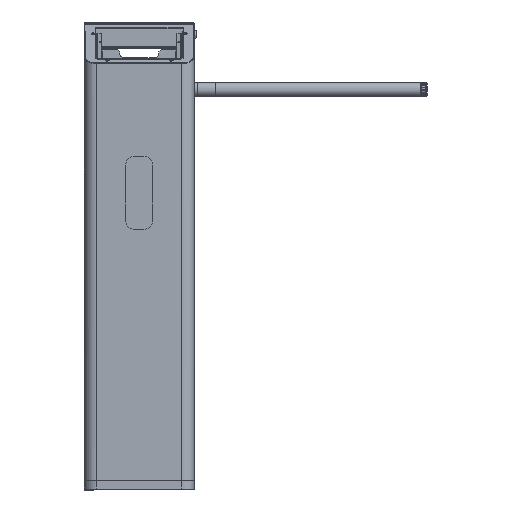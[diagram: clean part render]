
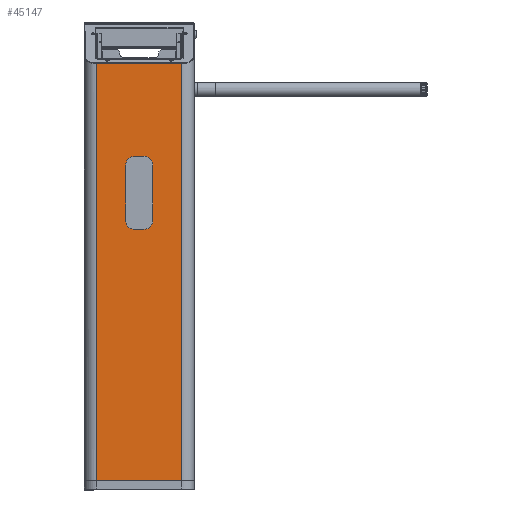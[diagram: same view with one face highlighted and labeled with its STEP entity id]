
A CAD part, left-side view. The second image highlights one B-rep face of the part: STEP entity #45147.
In plain terms, the highlighted planar face has unit normal (-1, 0, 0).
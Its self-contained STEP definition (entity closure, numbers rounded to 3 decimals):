
#3865=CIRCLE('',#57249,20.);
#3867=CIRCLE('',#57253,20.);
#3869=CIRCLE('',#57257,20.);
#3871=CIRCLE('',#57261,20.);
#17042=ORIENTED_EDGE('',*,*,#23731,.F.);
#17043=ORIENTED_EDGE('',*,*,#23711,.T.);
#17044=ORIENTED_EDGE('',*,*,#23733,.T.);
#17045=ORIENTED_EDGE('',*,*,#23734,.T.);
#17046=ORIENTED_EDGE('',*,*,#23677,.F.);
#17047=ORIENTED_EDGE('',*,*,#23699,.F.);
#17048=ORIENTED_EDGE('',*,*,#23696,.F.);
#17049=ORIENTED_EDGE('',*,*,#23693,.F.);
#17050=ORIENTED_EDGE('',*,*,#23690,.F.);
#17051=ORIENTED_EDGE('',*,*,#23687,.F.);
#17052=ORIENTED_EDGE('',*,*,#23684,.F.);
#17053=ORIENTED_EDGE('',*,*,#23681,.F.);
#23677=EDGE_CURVE('',#27900,#27901,#31026,.T.);
#23681=EDGE_CURVE('',#27901,#27904,#3865,.T.);
#23684=EDGE_CURVE('',#27904,#27906,#31031,.T.);
#23687=EDGE_CURVE('',#27906,#27908,#3867,.T.);
#23690=EDGE_CURVE('',#27908,#27910,#31035,.T.);
#23693=EDGE_CURVE('',#27910,#27912,#3869,.T.);
#23696=EDGE_CURVE('',#27912,#27914,#31039,.T.);
#23699=EDGE_CURVE('',#27914,#27900,#3871,.T.);
#23711=EDGE_CURVE('',#27927,#27926,#31046,.T.);
#23731=EDGE_CURVE('',#27927,#27942,#31059,.T.);
#23733=EDGE_CURVE('',#27926,#27943,#31060,.T.);
#23734=EDGE_CURVE('',#27943,#27942,#31061,.T.);
#27900=VERTEX_POINT('',#102557);
#27901=VERTEX_POINT('',#102558);
#27904=VERTEX_POINT('',#102566);
#27906=VERTEX_POINT('',#102572);
#27908=VERTEX_POINT('',#102578);
#27910=VERTEX_POINT('',#102584);
#27912=VERTEX_POINT('',#102590);
#27914=VERTEX_POINT('',#102596);
#27926=VERTEX_POINT('',#102626);
#27927=VERTEX_POINT('',#102628);
#27942=VERTEX_POINT('',#102666);
#27943=VERTEX_POINT('',#102670);
#31026=LINE('',#102556,#34183);
#31031=LINE('',#102571,#34188);
#31035=LINE('',#102583,#34192);
#31039=LINE('',#102595,#34196);
#31046=LINE('',#102627,#34203);
#31059=LINE('',#102665,#34216);
#31060=LINE('',#102669,#34217);
#31061=LINE('',#102671,#34218);
#34183=VECTOR('',#68590,1000.);
#34188=VECTOR('',#68603,1000.);
#34192=VECTOR('',#68615,1000.);
#34196=VECTOR('',#68627,1000.);
#34203=VECTOR('',#68658,1000.);
#34216=VECTOR('',#68691,1000.);
#34217=VECTOR('',#68696,1000.);
#34218=VECTOR('',#68697,1000.);
#37692=EDGE_LOOP('',(#17042,#17043,#17044,#17045));
#37693=EDGE_LOOP('',(#17046,#17047,#17048,#17049,#17050,#17051,#17052,#17053));
#41233=FACE_BOUND('',#37692,.T.);
#41234=FACE_BOUND('',#37693,.T.);
#42471=PLANE('',#57283);
#45147=ADVANCED_FACE('',(#41233,#41234),#42471,.F.);
#57249=AXIS2_PLACEMENT_3D('',#102565,#68596,#68597);
#57253=AXIS2_PLACEMENT_3D('',#102577,#68608,#68609);
#57257=AXIS2_PLACEMENT_3D('',#102589,#68620,#68621);
#57261=AXIS2_PLACEMENT_3D('',#102601,#68632,#68633);
#57283=AXIS2_PLACEMENT_3D('',#102668,#68694,#68695);
#68590=DIRECTION('',(0.,0.,1.));
#68596=DIRECTION('',(-1.,0.,0.));
#68597=DIRECTION('',(0.,1.,0.));
#68603=DIRECTION('',(0.,1.,0.));
#68608=DIRECTION('',(-1.,0.,0.));
#68609=DIRECTION('',(0.,-1.,0.));
#68615=DIRECTION('',(0.,0.,-1.));
#68620=DIRECTION('',(-1.,0.,0.));
#68621=DIRECTION('',(0.,-1.,0.));
#68627=DIRECTION('',(0.,-1.,0.));
#68632=DIRECTION('',(-1.,0.,0.));
#68633=DIRECTION('',(0.,-1.,0.));
#68658=DIRECTION('',(0.,1.,0.));
#68691=DIRECTION('',(0.,0.,-1.));
#68694=DIRECTION('',(1.,0.,0.));
#68695=DIRECTION('',(0.,1.,0.));
#68696=DIRECTION('',(0.,0.,-1.));
#68697=DIRECTION('',(0.,-1.,0.));
#102556=CARTESIAN_POINT('',(-681.,-30.,710.5));
#102557=CARTESIAN_POINT('',(-681.,-30.,590.5));
#102558=CARTESIAN_POINT('',(-681.,-30.,710.5));
#102565=CARTESIAN_POINT('',(-681.,-10.,710.5));
#102566=CARTESIAN_POINT('',(-681.,-10.,730.5));
#102571=CARTESIAN_POINT('',(-681.,10.,730.5));
#102572=CARTESIAN_POINT('',(-681.,10.,730.5));
#102577=CARTESIAN_POINT('',(-681.,10.,710.5));
#102578=CARTESIAN_POINT('',(-681.,30.,710.5));
#102583=CARTESIAN_POINT('',(-681.,30.,710.5));
#102584=CARTESIAN_POINT('',(-681.,30.,590.5));
#102589=CARTESIAN_POINT('',(-681.,10.,590.5));
#102590=CARTESIAN_POINT('',(-681.,10.,570.5));
#102595=CARTESIAN_POINT('',(-681.,10.,570.5));
#102596=CARTESIAN_POINT('',(-681.,-10.,570.5));
#102601=CARTESIAN_POINT('',(-681.,-10.,590.5));
#102626=CARTESIAN_POINT('',(-681.,93.5,933.088));
#102627=CARTESIAN_POINT('',(-681.,-93.5,933.088));
#102628=CARTESIAN_POINT('',(-681.,-93.5,933.088));
#102665=CARTESIAN_POINT('',(-681.,-93.5,1016.5));
#102666=CARTESIAN_POINT('',(-681.,-93.5,20.5));
#102668=CARTESIAN_POINT('',(-681.,-93.5,1016.5));
#102669=CARTESIAN_POINT('',(-681.,93.5,1016.5));
#102670=CARTESIAN_POINT('',(-681.,93.5,20.5));
#102671=CARTESIAN_POINT('',(-681.,-93.5,20.5));
